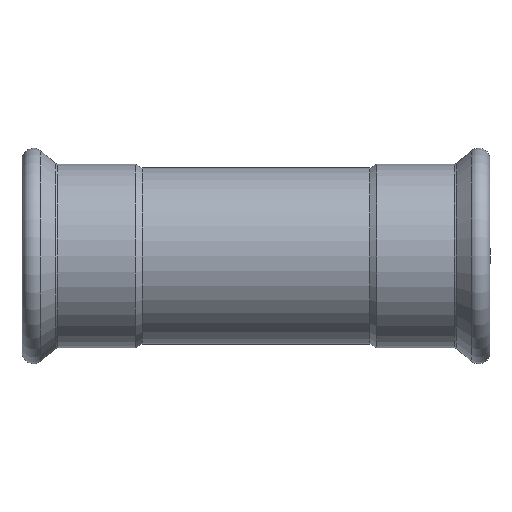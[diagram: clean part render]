
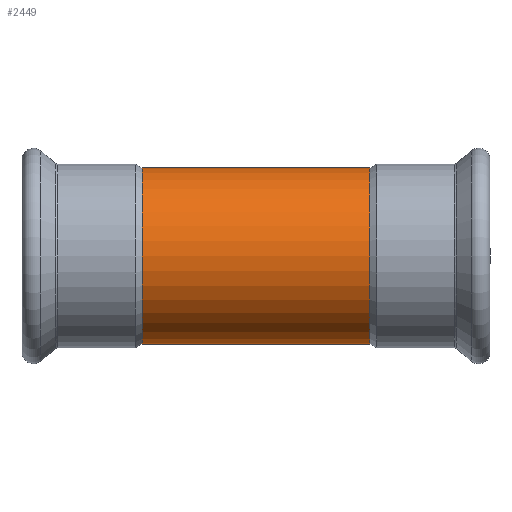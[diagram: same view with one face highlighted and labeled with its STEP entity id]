
A CAD part, front view. The second image highlights one B-rep face of the part: STEP entity #2449.
In plain terms, the highlighted cylindrical face has radius 54 mm (diameter 108 mm), a full revolution.
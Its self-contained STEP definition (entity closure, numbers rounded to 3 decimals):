
#2240=CARTESIAN_POINT('',(0.,50.62,18.804));
#2241=VERTEX_POINT('',#2240);
#2324=CARTESIAN_POINT('',(0.,50.62,18.804));
#2325=CARTESIAN_POINT('',(0.732,50.62,18.804));
#2326=CARTESIAN_POINT('',(2.196,50.65,18.724));
#2327=CARTESIAN_POINT('',(4.371,50.782,18.366));
#2328=CARTESIAN_POINT('',(6.12,50.956,17.877));
#2329=CARTESIAN_POINT('',(7.487,51.13,17.373));
#2330=CARTESIAN_POINT('',(8.655,51.299,16.867));
#2331=CARTESIAN_POINT('',(9.621,51.461,16.368));
#2332=CARTESIAN_POINT('',(10.865,51.689,15.635));
#2333=CARTESIAN_POINT('',(12.191,51.959,14.725));
#2334=CARTESIAN_POINT('',(13.675,52.305,13.447));
#2335=CARTESIAN_POINT('',(14.661,52.556,12.414));
#2336=CARTESIAN_POINT('',(15.353,52.74,11.602));
#2337=CARTESIAN_POINT('',(15.9,52.89,10.903));
#2338=CARTESIAN_POINT('',(16.606,53.091,9.887));
#2339=CARTESIAN_POINT('',(17.146,53.251,8.979));
#2340=CARTESIAN_POINT('',(17.798,53.45,7.725));
#2341=CARTESIAN_POINT('',(18.431,53.648,6.259));
#2342=CARTESIAN_POINT('',(19.042,53.847,4.232));
#2343=CARTESIAN_POINT('',(19.338,53.946,2.574));
#2344=CARTESIAN_POINT('',(19.473,53.991,1.164));
#2345=CARTESIAN_POINT('',(19.526,54.009,-0.246));
#2346=CARTESIAN_POINT('',(19.419,53.973,-2.107));
#2347=CARTESIAN_POINT('',(19.051,53.85,-4.195));
#2348=CARTESIAN_POINT('',(18.577,53.696,-5.78));
#2349=CARTESIAN_POINT('',(17.895,53.479,-7.55));
#2350=CARTESIAN_POINT('',(16.934,53.183,-9.463));
#2351=CARTESIAN_POINT('',(15.643,52.815,-11.285));
#2352=CARTESIAN_POINT('',(14.705,52.568,-12.356));
#2353=CARTESIAN_POINT('',(14.053,52.402,-13.047));
#2354=CARTESIAN_POINT('',(12.939,52.128,-14.122));
#2355=CARTESIAN_POINT('',(11.425,51.796,-15.288));
#2356=CARTESIAN_POINT('',(10.101,51.547,-16.093));
#2357=CARTESIAN_POINT('',(9.257,51.4,-16.555));
#2358=CARTESIAN_POINT('',(8.393,51.259,-16.988));
#2359=CARTESIAN_POINT('',(7.163,51.084,-17.508));
#2360=CARTESIAN_POINT('',(5.315,50.866,-18.134));
#2361=CARTESIAN_POINT('',(2.939,50.674,-18.661));
#2362=CARTESIAN_POINT('',(0.612,50.61,-18.83));
#2363=CARTESIAN_POINT('',(-1.339,50.63,-18.777));
#2364=CARTESIAN_POINT('',(-2.803,50.684,-18.631));
#2365=CARTESIAN_POINT('',(-4.36,50.789,-18.345));
#2366=CARTESIAN_POINT('',(-6.24,50.963,-17.858));
#2367=CARTESIAN_POINT('',(-8.522,51.262,-16.992));
#2368=CARTESIAN_POINT('',(-10.628,51.638,-15.813));
#2369=CARTESIAN_POINT('',(-12.174,51.96,-14.711));
#2370=CARTESIAN_POINT('',(-13.641,52.294,-13.494));
#2371=CARTESIAN_POINT('',(-14.964,52.632,-12.12));
#2372=CARTESIAN_POINT('',(-16.114,52.95,-10.62));
#2373=CARTESIAN_POINT('',(-17.142,53.248,-9.049));
#2374=CARTESIAN_POINT('',(-18.206,53.575,-6.929));
#2375=CARTESIAN_POINT('',(-19.073,53.857,-4.241));
#2376=CARTESIAN_POINT('',(-19.444,53.981,-1.897));
#2377=CARTESIAN_POINT('',(-19.518,54.006,-0.017));
#2378=CARTESIAN_POINT('',(-19.465,53.988,1.399));
#2379=CARTESIAN_POINT('',(-19.3,53.933,2.807));
#2380=CARTESIAN_POINT('',(-18.938,53.813,4.652));
#2381=CARTESIAN_POINT('',(-18.213,53.578,6.916));
#2382=CARTESIAN_POINT('',(-17.146,53.249,9.041));
#2383=CARTESIAN_POINT('',(-16.118,52.951,10.614));
#2384=CARTESIAN_POINT('',(-14.683,52.554,12.489));
#2385=CARTESIAN_POINT('',(-12.78,52.079,14.322));
#2386=CARTESIAN_POINT('',(-10.427,51.6,15.935));
#2387=CARTESIAN_POINT('',(-8.512,51.27,16.962));
#2388=CARTESIAN_POINT('',(-6.476,50.991,17.778));
#2389=CARTESIAN_POINT('',(-4.367,50.781,18.367));
#2390=CARTESIAN_POINT('',(-2.202,50.65,18.723));
#2391=CARTESIAN_POINT('',(-0.731,50.62,18.804));
#2392=CARTESIAN_POINT('',(0.,50.62,18.804));
#2393=B_SPLINE_CURVE_WITH_KNOTS('',3,(#2324,#2325,#2326,#2327,#2328,#2329,#2330,#2331,#2332,#2333,#2334,#2335,#2336,#2337,#2338,#2339,#2340,#2341,#2342,#2343,#2344,#2345,#2346,#2347,#2348,#2349,#2350,#2351,#2352,#2353,#2354,#2355,#2356,#2357,#2358,#2359,#2360,#2361,#2362,#2363,#2364,#2365,#2366,#2367,#2368,#2369,#2370,#2371,#2372,#2373,#2374,#2375,#2376,#2377,#2378,#2379,#2380,#2381,#2382,#2383,#2384,#2385,#2386,#2387,#2388,#2389,#2390,#2391,#2392),.UNSPECIFIED.,.T.,.U.,(4,1,1,1,1,1,1,1,1,1,1,1,1,1,1,1,1,1,1,1,1,1,1,1,1,1,1,1,1,1,1,1,1,1,1,1,1,1,1,1,1,1,1,1,1,1,1,1,1,1,1,1,1,1,1,1,1,1,1,1,1,1,1,1,1,1,4),(-10.631,-10.441,-10.251,-10.061,-9.966,-9.871,-9.729,-9.682,-9.492,-9.302,-9.159,-9.112,-9.017,-8.922,-8.78,-8.732,-8.543,-8.353,-8.163,-8.092,-7.973,-7.783,-7.593,-7.404,-7.34,-7.087,-6.834,-6.739,-6.707,-6.581,-6.328,-6.201,-6.17,-6.075,-5.948,-5.822,-5.568,-5.315,-5.22,-5.062,-4.936,-4.809,-4.556,-4.303,-4.176,-4.05,-3.797,-3.67,-3.544,-3.29,-3.037,-2.784,-2.658,-2.531,-2.405,-2.278,-2.025,-1.772,-1.645,-1.519,-1.139,-0.949,-0.759,-0.57,-0.38,-0.19,0.0),.UNSPECIFIED.);
#2394=EDGE_CURVE('',#2241,#2241,#2393,.T.);
#2419=CARTESIAN_POINT('',(0.,0.,0.0));
#2420=DIRECTION('',(1.0,0.,0.0));
#2421=DIRECTION('',(0.0,1.0,0.0));
#2422=AXIS2_PLACEMENT_3D('',#2419,#2420,#2421);
#2423=CYLINDRICAL_SURFACE('',#2422,54.);
#2424=CARTESIAN_POINT('',(-69.894,54.0,0.0));
#2425=VERTEX_POINT('',#2424);
#2426=CARTESIAN_POINT('',(-69.894,0.,0.0));
#2427=DIRECTION('',(1.0,0.0,0.0));
#2428=DIRECTION('',(0.0,1.0,0.0));
#2429=AXIS2_PLACEMENT_3D('',#2426,#2427,#2428);
#2430=CIRCLE('',#2429,54.);
#2431=EDGE_CURVE('',#2425,#2425,#2430,.T.);
#2432=ORIENTED_EDGE('',*,*,#2431,.T.);
#2433=EDGE_LOOP('',(#2432));
#2434=FACE_OUTER_BOUND('',#2433,.T.);
#2435=CARTESIAN_POINT('',(69.894,54.,0.0));
#2436=VERTEX_POINT('',#2435);
#2437=CARTESIAN_POINT('',(69.894,0.,0.0));
#2438=DIRECTION('',(1.0,0.0,0.0));
#2439=DIRECTION('',(0.0,1.0,0.0));
#2440=AXIS2_PLACEMENT_3D('',#2437,#2438,#2439);
#2441=CIRCLE('',#2440,54.);
#2442=EDGE_CURVE('',#2436,#2436,#2441,.T.);
#2443=ORIENTED_EDGE('',*,*,#2442,.F.);
#2444=EDGE_LOOP('',(#2443));
#2445=FACE_BOUND('',#2444,.T.);
#2446=ORIENTED_EDGE('',*,*,#2394,.F.);
#2447=EDGE_LOOP('',(#2446));
#2448=FACE_BOUND('',#2447,.T.);
#2449=ADVANCED_FACE('',(#2434,#2445,#2448),#2423,.T.);
